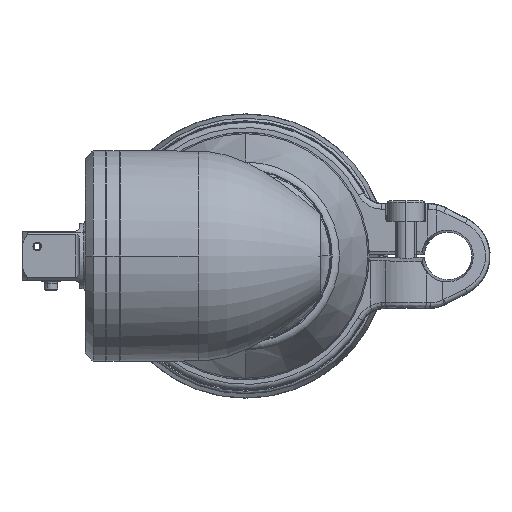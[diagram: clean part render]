
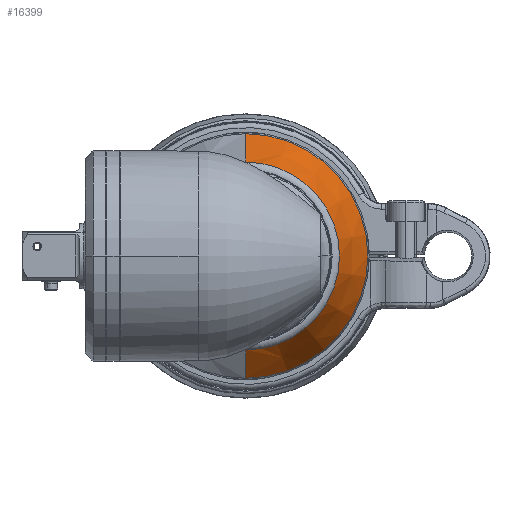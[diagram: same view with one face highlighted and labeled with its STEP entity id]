
A CAD part, left-side view. The second image highlights one B-rep face of the part: STEP entity #16399.
In plain terms, the highlighted conical face has half-angle 20.556 degrees and reference radius 20.555 mm.
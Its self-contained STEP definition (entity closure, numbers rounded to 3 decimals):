
#15625=CARTESIAN_POINT('',(-34.027,0.,0.));
#15626=DIRECTION('',(-1.,0.,0.));
#15627=DIRECTION('',(0.,1.,0.));
#15628=AXIS2_PLACEMENT_3D('',#15625,#15626,#15627);
#15630=DIRECTION('',(-0.936,0.351,0.));
#15631=VECTOR('',#15630,15.323);
#15632=CARTESIAN_POINT('',(-19.679,-23.245,
0.));
#15633=LINE('',#15632,#15631);
#15634=CARTESIAN_POINT('',(-19.679,0.,0.));
#15635=DIRECTION('',(-1.,0.,0.));
#15636=DIRECTION('',(0.,1.,0.));
#15637=AXIS2_PLACEMENT_3D('',#15634,#15635,#15636);
#15639=DIRECTION('',(-0.936,-0.351,0.));
#15640=VECTOR('',#15639,15.323);
#15641=CARTESIAN_POINT('',(-19.679,23.245,
0.));
#15642=LINE('',#15641,#15640);
#15683=CARTESIAN_POINT('',(-19.679,-23.245,0.));
#15684=CARTESIAN_POINT('',(-19.679,23.245,0.));
#15685=VERTEX_POINT('',#15683);
#15686=VERTEX_POINT('',#15684);
#15695=CARTESIAN_POINT('',(-34.027,-17.865,0.));
#15696=CARTESIAN_POINT('',(-34.027,17.865,0.));
#15697=VERTEX_POINT('',#15695);
#15698=VERTEX_POINT('',#15696);
#16385=CARTESIAN_POINT('',(-26.853,0.,0.));
#16386=DIRECTION('',(1.,0.,0.));
#16387=DIRECTION('',(0.,-1.,0.));
#16388=AXIS2_PLACEMENT_3D('',#16385,#16386,#16387);
#16389=CONICAL_SURFACE('',#16388,20.555,20.556);
#16390=ORIENTED_EDGE('',*,*,#16379,.T.);
#16392=ORIENTED_EDGE('',*,*,#16391,.F.);
#16394=ORIENTED_EDGE('',*,*,#16393,.F.);
#16396=ORIENTED_EDGE('',*,*,#16395,.T.);
#16397=EDGE_LOOP('',(#16390,#16392,#16394,#16396));
#16398=FACE_OUTER_BOUND('',#16397,.F.);
#16399=ADVANCED_FACE('',(#16398),#16389,.T.);
#15629=CIRCLE('',#15628,17.865);
#15638=CIRCLE('',#15637,23.245);
#16379=EDGE_CURVE('',#15698,#15697,#15629,.T.);
#16391=EDGE_CURVE('',#15685,#15697,#15633,.T.);
#16393=EDGE_CURVE('',#15686,#15685,#15638,.T.);
#16395=EDGE_CURVE('',#15686,#15698,#15642,.T.);
